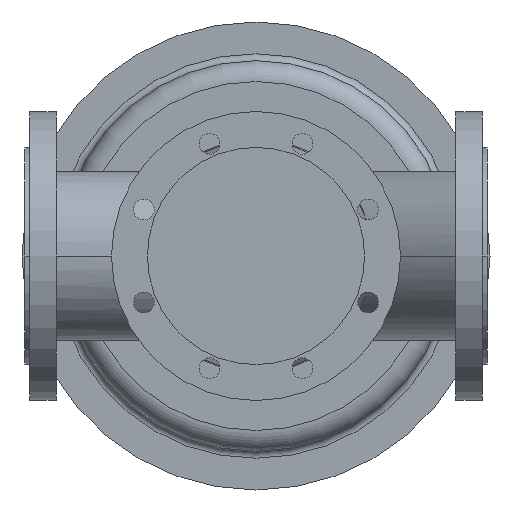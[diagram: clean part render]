
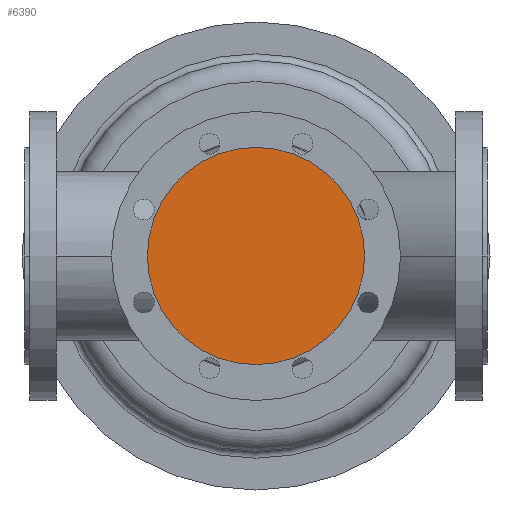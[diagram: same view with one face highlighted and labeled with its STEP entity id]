
A CAD part, front view. The second image highlights one B-rep face of the part: STEP entity #6390.
In plain terms, the highlighted planar face has unit normal (0, -1, 0).
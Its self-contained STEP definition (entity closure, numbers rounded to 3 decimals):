
#5980=CARTESIAN_POINT('',(106.,-200.,0.));
#5990=VERTEX_POINT('',#5980);
#6020=CARTESIAN_POINT('',(200.,-200.,0.));
#6030=DIRECTION('',(0.,1.,0.));
#6040=DIRECTION('',(1.,0.,0.));
#6050=AXIS2_PLACEMENT_3D('',#6020,#6030,#6040);
#6060=CIRCLE('',#6050,94.);
#6070=CARTESIAN_POINT('',(294.,-200.,0.));
#6080=VERTEX_POINT('',#6070);
#6090=EDGE_CURVE('',#6080,#5990,#6060,.T.);
#6290=CARTESIAN_POINT('',(247.,-200.,0.));
#6300=DIRECTION('',(0.,-1.,0.));
#6310=DIRECTION('',(-1.,0.,0.));
#6320=AXIS2_PLACEMENT_3D('',#6290,#6300,#6310);
#6330=PLANE('',#6320);
#6340=ORIENTED_EDGE('',*,*,#6090,.F.);
#6350=EDGE_CURVE('',#5990,#6080,#6060,.T.);
#6360=ORIENTED_EDGE('',*,*,#6350,.F.);
#6370=EDGE_LOOP('',(#6360,#6340));
#6380=FACE_OUTER_BOUND('',#6370,.T.);
#6390=ADVANCED_FACE('',(#6380),#6330,.T.);
